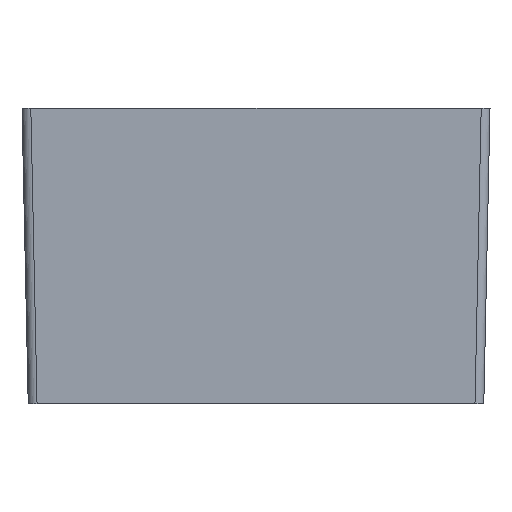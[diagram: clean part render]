
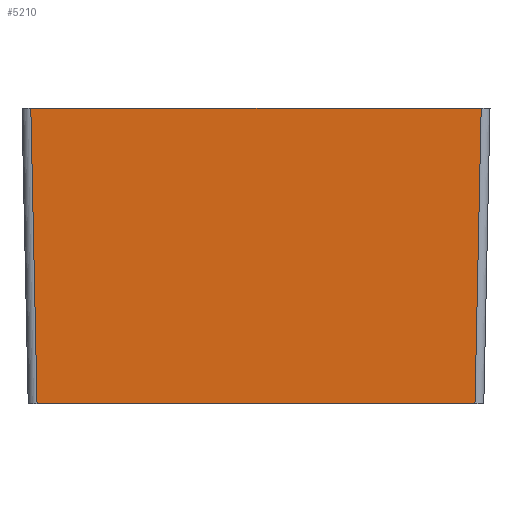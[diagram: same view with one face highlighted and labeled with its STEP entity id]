
A CAD part, left-side view. The second image highlights one B-rep face of the part: STEP entity #5210.
In plain terms, the highlighted planar face has unit normal (-1, 0, -0.021).
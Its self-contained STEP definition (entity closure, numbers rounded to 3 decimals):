
#899=FACE_OUTER_BOUND('',#1197,.T.);
#1197=EDGE_LOOP('',(#4231,#4232,#4233,#4234));
#1538=LINE('',#11457,#1876);
#1584=LINE('',#14307,#1922);
#1585=LINE('',#14310,#1923);
#1586=LINE('',#14311,#1924);
#1876=VECTOR('',#6149,304.8);
#1922=VECTOR('',#6303,304.8);
#1923=VECTOR('',#6306,304.8);
#1924=VECTOR('',#6307,304.8);
#2305=VERTEX_POINT('',#11454);
#2306=VERTEX_POINT('',#11456);
#2399=VERTEX_POINT('',#14305);
#2400=VERTEX_POINT('',#14309);
#2959=EDGE_CURVE('',#2306,#2305,#1538,.T.);
#3105=EDGE_CURVE('',#2305,#2399,#1584,.T.);
#3106=EDGE_CURVE('',#2400,#2399,#1585,.T.);
#3107=EDGE_CURVE('',#2306,#2400,#1586,.T.);
#4231=ORIENTED_EDGE('',*,*,#2959,.T.);
#4232=ORIENTED_EDGE('',*,*,#3105,.T.);
#4233=ORIENTED_EDGE('',*,*,#3106,.F.);
#4234=ORIENTED_EDGE('',*,*,#3107,.F.);
#5021=PLANE('',#5540);
#5210=ADVANCED_FACE('',(#899),#5021,.T.);
#5540=AXIS2_PLACEMENT_3D('',#14308,#6304,#6305);
#6149=DIRECTION('',(0.,1.,0.));
#6303=DIRECTION('',(0.021,-0.021,-1.));
#6304=DIRECTION('center_axis',(-1.,0.,-0.021));
#6305=DIRECTION('ref_axis',(-0.021,0.,1.));
#6306=DIRECTION('',(0.,1.,0.));
#6307=DIRECTION('',(0.021,0.021,-1.));
#11454=CARTESIAN_POINT('',(-94.75,38.25,50.25));
#11456=CARTESIAN_POINT('',(-94.75,-38.25,50.25));
#11457=CARTESIAN_POINT('',(-94.75,-38.25,50.25));
#14305=CARTESIAN_POINT('',(-93.697,37.198,0.));
#14307=CARTESIAN_POINT('',(-94.75,38.25,50.25));
#14308=CARTESIAN_POINT('Origin',(-94.75,0.,
50.25));
#14309=CARTESIAN_POINT('',(-93.697,-37.198,0.));
#14310=CARTESIAN_POINT('',(-93.697,-37.198,0.));
#14311=CARTESIAN_POINT('',(-94.75,-38.25,50.25));
